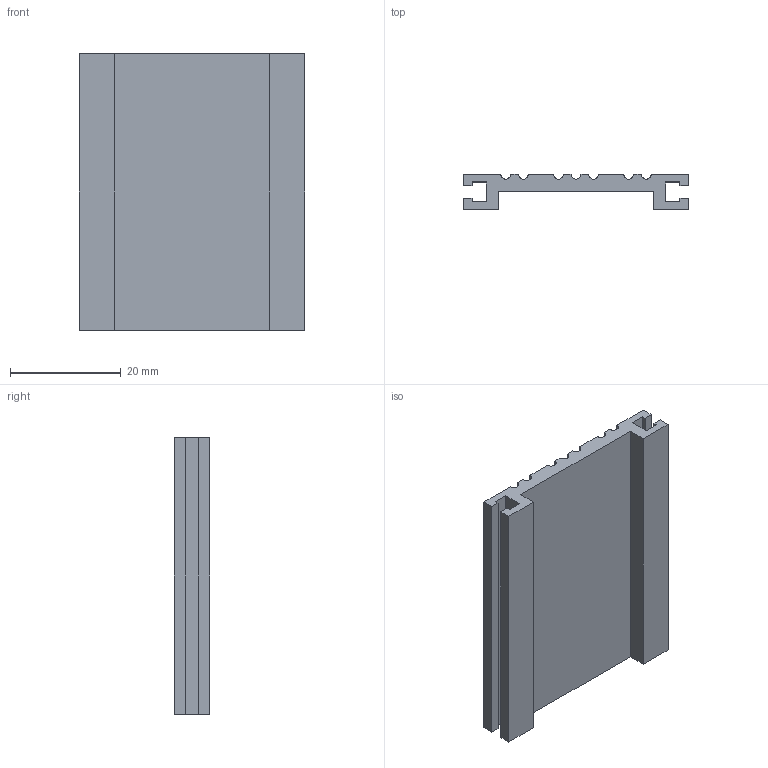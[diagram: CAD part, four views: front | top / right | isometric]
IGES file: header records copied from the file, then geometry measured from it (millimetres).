
Global section: file name: No Iges File Name specified; native system: Autodesk Inventor 2012; preprocessor: AutoDesk Inventor Iges Exporter R2012; author: anna.b; date: 20170316.095756; units: millimetre
Bounding box: 40.8 x 6.35 x 50 mm (x, y, z)
Volume: 6593.3 mm3; surface area: 6756.5 mm2
Topology: 1 solids, 1 shells, 40 faces, 114 edges, 76 vertices
Faces by surface type: plane 33, revolution 7
